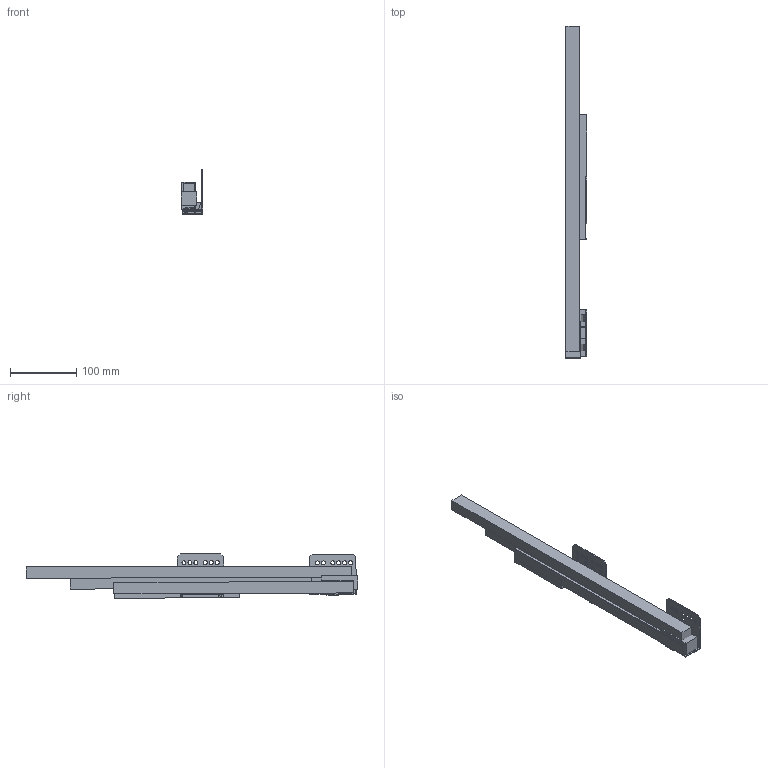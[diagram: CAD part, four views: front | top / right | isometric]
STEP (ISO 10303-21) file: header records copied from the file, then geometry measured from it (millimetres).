
FILE_DESCRIPTION (( 'STEP AP214' ), '1' );
FILE_NAME ('_IMOS Dynamic-XP VA 40kg NL500 RE.step', '2010-07-07T08:06:47', ( 'grass' ), ( '' ), 'SwSTEP 2.0', 'SolidWorks 2010', '' );
FILE_SCHEMA (( 'AUTOMOTIVE_DESIGN' ));
Length unit declared in the file: millimetre
Products named in the file (1): _IMOS Dynamic-XP VA 40kg NL500 RE
Bounding box: 32.79 x 499.89 x 66.67 mm (x, y, z)
Volume: 417705.8 mm3; surface area: 148164.3 mm2
Topology: 7 solids, 7 shells, 151 faces, 411 edges, 274 vertices
Faces by surface type: plane 111, cylinder 40
Entity records: 4913 total; most frequent: CARTESIAN_POINT 837, ORIENTED_EDGE 822, DIRECTION 795, EDGE_CURVE 411, VECTOR 331, LINE 331, VERTEX_POINT 274, AXIS2_PLACEMENT_3D 232
